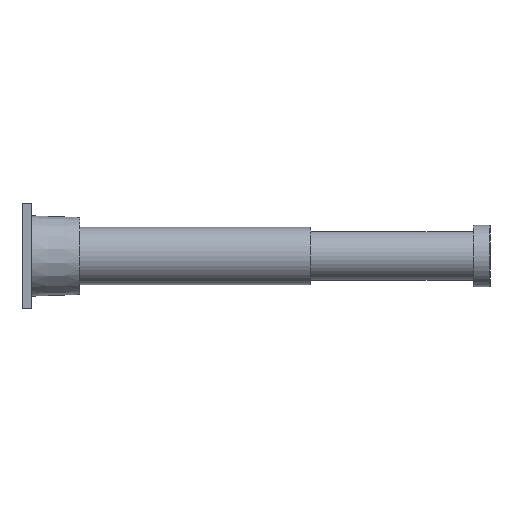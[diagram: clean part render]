
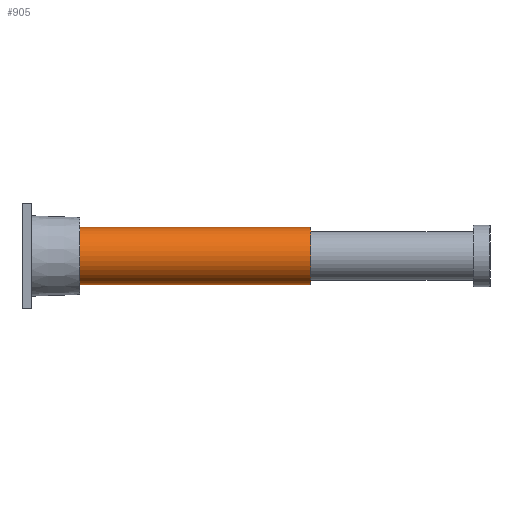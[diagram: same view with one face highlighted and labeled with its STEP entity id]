
A CAD part, front view. The second image highlights one B-rep face of the part: STEP entity #905.
In plain terms, the highlighted cylindrical face has radius 60 mm (diameter 120 mm), a partial arc.
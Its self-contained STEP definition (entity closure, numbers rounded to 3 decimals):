
#34 = CARTESIAN_POINT ( 'NONE',  ( 100., 0., 60. ) ) ;
#47 = EDGE_CURVE ( 'NONE', #572, #484, #288, .T. ) ;
#59 = CARTESIAN_POINT ( 'NONE',  ( 580., 0., 0. ) ) ;
#62 = DIRECTION ( 'NONE',  ( -1., 0., 0. ) ) ;
#64 = CARTESIAN_POINT ( 'NONE',  ( 580., 0., 60. ) ) ;
#70 = DIRECTION ( 'NONE',  ( 0., 0., 1. ) ) ;
#74 = DIRECTION ( 'NONE',  ( -1., 0., 0. ) ) ;
#97 = CIRCLE ( 'NONE', #946, 60. ) ;
#125 = ORIENTED_EDGE ( 'NONE', *, *, #849, .T. ) ;
#126 = EDGE_CURVE ( 'NONE', #484, #1149, #97, .T. ) ;
#157 = DIRECTION ( 'NONE',  ( 0., 0., 1. ) ) ;
#178 = FACE_OUTER_BOUND ( 'NONE', #682, .T. ) ;
#200 = EDGE_CURVE ( 'NONE', #572, #730, #1023, .T. ) ;
#262 = DIRECTION ( 'NONE',  ( -1., 0., 0. ) ) ;
#269 = VECTOR ( 'NONE', #597, 1000. ) ;
#288 = LINE ( 'NONE', #805, #269 ) ;
#397 = CARTESIAN_POINT ( 'NONE',  ( 580., 0., 0. ) ) ;
#464 = CARTESIAN_POINT ( 'NONE',  ( 100., 0., 0. ) ) ;
#474 = CARTESIAN_POINT ( 'NONE',  ( 580., 0., 60. ) ) ;
#484 = VERTEX_POINT ( 'NONE', #760 ) ;
#572 = VERTEX_POINT ( 'NONE', #1035 ) ;
#597 = DIRECTION ( 'NONE',  ( -1., 0., 0. ) ) ;
#607 = ORIENTED_EDGE ( 'NONE', *, *, #126, .F. ) ;
#682 = EDGE_LOOP ( 'NONE', ( #753, #726, #125, #607 ) ) ;
#684 = AXIS2_PLACEMENT_3D ( 'NONE', #397, #262, #157 ) ;
#709 = DIRECTION ( 'NONE',  ( 0., 0., -1. ) ) ;
#726 = ORIENTED_EDGE ( 'NONE', *, *, #200, .T. ) ;
#730 = VERTEX_POINT ( 'NONE', #474 ) ;
#753 = ORIENTED_EDGE ( 'NONE', *, *, #47, .F. ) ;
#760 = CARTESIAN_POINT ( 'NONE',  ( 100., 0., -60. ) ) ;
#805 = CARTESIAN_POINT ( 'NONE',  ( 580., 0., -60. ) ) ;
#849 = EDGE_CURVE ( 'NONE', #730, #1149, #1001, .T. ) ;
#905 = ADVANCED_FACE ( 'NONE', ( #178 ), #948, .T. ) ;
#946 = AXIS2_PLACEMENT_3D ( 'NONE', #464, #1012, #709 ) ;
#948 = CYLINDRICAL_SURFACE ( 'NONE', #684, 60. ) ;
#1001 = LINE ( 'NONE', #64, #1117 ) ;
#1012 = DIRECTION ( 'NONE',  ( -1., 0., 0. ) ) ;
#1023 = CIRCLE ( 'NONE', #1113, 60. ) ;
#1035 = CARTESIAN_POINT ( 'NONE',  ( 580., 0., -60. ) ) ;
#1113 = AXIS2_PLACEMENT_3D ( 'NONE', #59, #62, #70 ) ;
#1117 = VECTOR ( 'NONE', #74, 1000. ) ;
#1149 = VERTEX_POINT ( 'NONE', #34 ) ;
